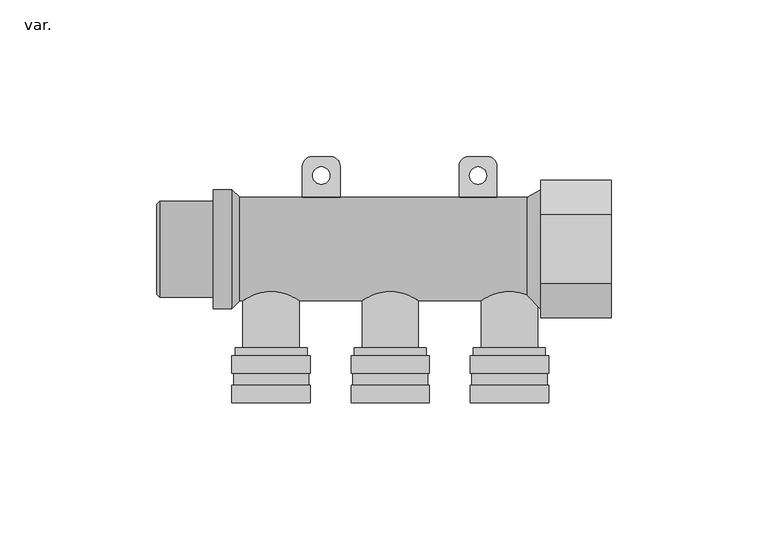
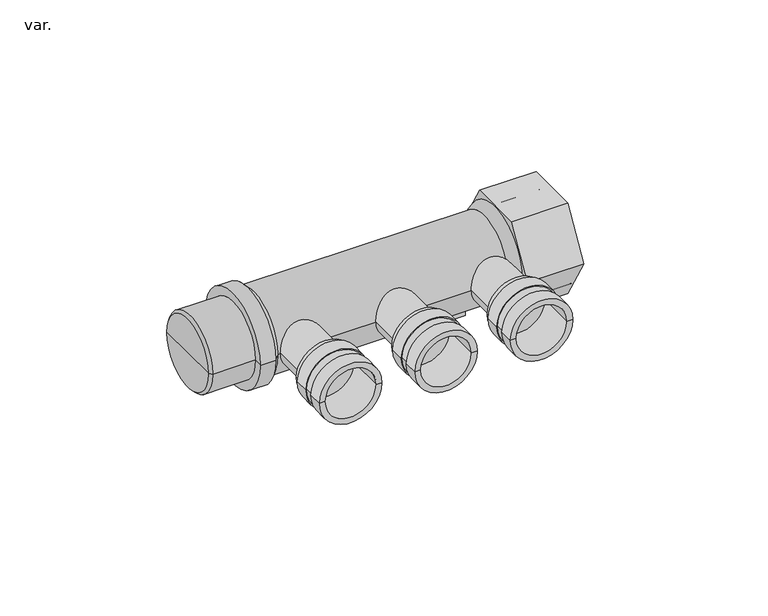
"""IFC4 building model written with IfcOpenShell, lengths in millimetres: pipe fitting geometry, AmancoWavin_ConexõesdeTubos_PEXMódulodeDistribuiçãoAberto1x20mm : var.."""

from ifc_helpers import new_model, si_unit, point, frame, origin, origin_2d, place, context, project, spatial, polyline, circle_curve, trimmed, segment, composite_curve, outline, extrude, source, transform, mapped, element, save
from ifc_brep_helpers import plane_surface, cylinder_surface, revolved_surface, advanced_brep


def var_84ef9f03(model_context):
    return source(origin(), model_context, "Body", "SolidModel", [
        advanced_brep(
        [(125.0, -49.0, 0.0), (100.0, -49.0, 0.0), (100.0, -43.375, 0.0), (125.0, -43.375, 0.0), (122.675, -49.0, 0.0), (102.325, -49.0, 0.0), (122.675, -34.0, 0.0), (102.325, -34.0, 0.0), (125.0, -34.0, 0.0), (100.0, -34.0, 0.0), (125.0, -39.625, 0.0), (100.0, -39.625, 0.0), (100.5, -43.375, 0.0), (124.5, -43.375, 0.0), (100.5, -39.625, 0.0), (124.5, -39.625, 0.0)],
        [
            (0, 1, circle_curve(frame((112.5, -49.0, 0.0), z_axis=(0.0, 1.0, 0.0), x_axis=(-1.0, 0.0, 0.0)), 12.5)),
            (1, 2),
            (2, 3, circle_curve(frame((112.5, -43.375, 0.0), z_axis=(0.0, -1.0, 0.0), x_axis=(-1.0, 0.0, 0.0)), 12.5)),
            (3, 0),
            (1, 0, circle_curve(frame((112.5, -49.0, 0.0), z_axis=(0.0, 1.0, 0.0), x_axis=(-1.0, 0.0, 0.0)), 12.5)),
            (3, 2, circle_curve(frame((112.5, -43.375, 0.0), z_axis=(0.0, -1.0, 0.0), x_axis=(-1.0, 0.0, 0.0)), 12.5)),
            (0, 4),
            (4, 5, circle_curve(frame((112.5, -49.0, 0.0), z_axis=(0.0, 1.0, 0.0), x_axis=(-1.0, 0.0, 0.0)), 10.175)),
            (5, 1),
            (5, 4, circle_curve(frame((112.5, -49.0, 0.0), z_axis=(0.0, 1.0, 0.0), x_axis=(-1.0, 0.0, 0.0)), 10.175)),
            (4, 6),
            (6, 7, circle_curve(frame((112.5, -34.0, 0.0), z_axis=(0.0, 1.0, 0.0), x_axis=(-1.0, 0.0, 0.0)), 10.175)),
            (7, 5),
            (7, 6, circle_curve(frame((112.5, -34.0, 0.0), z_axis=(0.0, 1.0, 0.0), x_axis=(-1.0, 0.0, 0.0)), 10.175)),
            (6, 8),
            (8, 9, circle_curve(frame((112.5, -34.0, 0.0), z_axis=(0.0, 1.0, 0.0), x_axis=(-1.0, 0.0, 0.0)), 12.5)),
            (9, 7),
            (9, 8, circle_curve(frame((112.5, -34.0, 0.0), z_axis=(0.0, 1.0, 0.0), x_axis=(-1.0, 0.0, 0.0)), 12.5)),
            (8, 10),
            (10, 11, circle_curve(frame((112.5, -39.625, 0.0), z_axis=(0.0, 1.0, 0.0), x_axis=(-1.0, 0.0, 0.0)), 12.5)),
            (11, 9),
            (11, 10, circle_curve(frame((112.5, -39.625, 0.0), z_axis=(0.0, 1.0, 0.0), x_axis=(-1.0, 0.0, 0.0)), 12.5)),
            (12, 13, circle_curve(frame((112.5, -43.375, 0.0), z_axis=(0.0, -1.0, 0.0), x_axis=(-1.0, 0.0, 0.0)), 12.0)),
            (13, 3),
            (2, 12),
            (13, 12, circle_curve(frame((112.5, -43.375, 0.0), z_axis=(0.0, -1.0, 0.0), x_axis=(-1.0, 0.0, 0.0)), 12.0)),
            (12, 14),
            (14, 15, circle_curve(frame((112.5, -39.625, 0.0), z_axis=(0.0, -1.0, 0.0), x_axis=(-1.0, 0.0, 0.0)), 12.0)),
            (15, 13),
            (15, 14, circle_curve(frame((112.5, -39.625, 0.0), z_axis=(0.0, -1.0, 0.0), x_axis=(-1.0, 0.0, 0.0)), 12.0)),
            (14, 11),
            (10, 15),
        ],
        [
            cylinder_surface(frame((112.5, -2043.1007619, 0.0), z_axis=(0.0, -1.0, 0.0), x_axis=(-1.0, 0.0, 0.0)), 12.5),
            plane_surface(frame((112.5, -49.0, 0.0), z_axis=(0.0, -1.0, 0.0), x_axis=(-1.0, 0.0, 0.0))),
            revolved_surface(polyline([(102.325, -49.0, 0.0), (102.325, -34.0, 0.0)]), (112.5, -2043.1007619, 0.0), (0.0, -1.0, 0.0)),
            plane_surface(frame((112.5, -34.0, 0.0), z_axis=(0.0, 1.0, 0.0), x_axis=(-1.0, 0.0, 0.0))),
            plane_surface(frame((112.5, -43.375, 0.0), z_axis=(0.0, 1.0, 0.0), x_axis=(-1.0, 0.0, 0.0))),
            cylinder_surface(frame((112.5, -2043.1007619, 0.0), z_axis=(0.0, -1.0, 0.0), x_axis=(-1.0, 0.0, 0.0)), 12.0),
            plane_surface(frame((112.5, -39.625, 0.0), z_axis=(0.0, -1.0, 0.0), x_axis=(-1.0, 0.0, 0.0))),
        ],
        [
            (0, [[1, 2, 3, 4]]),
            (0, [[5, -4, 6, -2]]),
            (1, [[-1, 7, 8, 9]]),
            (1, [[-5, -9, 10, -7]]),
            (2, [[-8, 11, 12, 13]]),
            (2, [[-10, -13, 14, -11]]),
            (3, [[-12, 15, 16, 17]]),
            (3, [[-14, -17, 18, -15]]),
            (0, [[-16, 19, 20, 21]]),
            (0, [[-18, -21, 22, -19]]),
            (4, [[23, 24, -3, 25]]),
            (4, [[26, -25, -6, -24]]),
            (5, [[-23, 27, 28, 29]]),
            (5, [[-26, -29, 30, -27]]),
            (6, [[-28, 31, -20, 32]]),
            (6, [[-30, -32, -22, -31]]),
        ],
    ),
        advanced_brep(
        [(87.0, -49.0, 0.0), (62.0, -49.0, 0.0), (62.0, -43.375, 0.0), (87.0, -43.375, 0.0), (84.675, -49.0, 0.0), (64.325, -49.0, 0.0), (84.675, -34.0, 0.0), (64.325, -34.0, 0.0), (87.0, -34.0, 0.0), (62.0, -34.0, 0.0), (87.0, -39.625, 0.0), (62.0, -39.625, 0.0), (62.5, -43.375, 0.0), (86.5, -43.375, 0.0), (62.5, -39.625, 0.0), (86.5, -39.625, 0.0)],
        [
            (0, 1, circle_curve(frame((74.5, -49.0, 0.0), z_axis=(0.0, 1.0, 0.0), x_axis=(-1.0, 0.0, 0.0)), 12.5)),
            (1, 2),
            (2, 3, circle_curve(frame((74.5, -43.375, 0.0), z_axis=(0.0, -1.0, 0.0), x_axis=(-1.0, 0.0, 0.0)), 12.5)),
            (3, 0),
            (1, 0, circle_curve(frame((74.5, -49.0, 0.0), z_axis=(0.0, 1.0, 0.0), x_axis=(-1.0, 0.0, 0.0)), 12.5)),
            (3, 2, circle_curve(frame((74.5, -43.375, 0.0), z_axis=(0.0, -1.0, 0.0), x_axis=(-1.0, 0.0, 0.0)), 12.5)),
            (0, 4),
            (4, 5, circle_curve(frame((74.5, -49.0, 0.0), z_axis=(0.0, 1.0, 0.0), x_axis=(-1.0, 0.0, 0.0)), 10.175)),
            (5, 1),
            (5, 4, circle_curve(frame((74.5, -49.0, 0.0), z_axis=(0.0, 1.0, 0.0), x_axis=(-1.0, 0.0, 0.0)), 10.175)),
            (4, 6),
            (6, 7, circle_curve(frame((74.5, -34.0, 0.0), z_axis=(0.0, 1.0, 0.0), x_axis=(-1.0, 0.0, 0.0)), 10.175)),
            (7, 5),
            (7, 6, circle_curve(frame((74.5, -34.0, 0.0), z_axis=(0.0, 1.0, 0.0), x_axis=(-1.0, 0.0, 0.0)), 10.175)),
            (6, 8),
            (8, 9, circle_curve(frame((74.5, -34.0, 0.0), z_axis=(0.0, 1.0, 0.0), x_axis=(-1.0, 0.0, 0.0)), 12.5)),
            (9, 7),
            (9, 8, circle_curve(frame((74.5, -34.0, 0.0), z_axis=(0.0, 1.0, 0.0), x_axis=(-1.0, 0.0, 0.0)), 12.5)),
            (8, 10),
            (10, 11, circle_curve(frame((74.5, -39.625, 0.0), z_axis=(0.0, 1.0, 0.0), x_axis=(-1.0, 0.0, 0.0)), 12.5)),
            (11, 9),
            (11, 10, circle_curve(frame((74.5, -39.625, 0.0), z_axis=(0.0, 1.0, 0.0), x_axis=(-1.0, 0.0, 0.0)), 12.5)),
            (12, 13, circle_curve(frame((74.5, -43.375, 0.0), z_axis=(0.0, -1.0, 0.0), x_axis=(-1.0, 0.0, 0.0)), 12.0)),
            (13, 3),
            (2, 12),
            (13, 12, circle_curve(frame((74.5, -43.375, 0.0), z_axis=(0.0, -1.0, 0.0), x_axis=(-1.0, 0.0, 0.0)), 12.0)),
            (12, 14),
            (14, 15, circle_curve(frame((74.5, -39.625, 0.0), z_axis=(0.0, -1.0, 0.0), x_axis=(-1.0, 0.0, 0.0)), 12.0)),
            (15, 13),
            (15, 14, circle_curve(frame((74.5, -39.625, 0.0), z_axis=(0.0, -1.0, 0.0), x_axis=(-1.0, 0.0, 0.0)), 12.0)),
            (14, 11),
            (10, 15),
        ],
        [
            cylinder_surface(frame((74.5, -2043.1007619, 0.0), z_axis=(0.0, -1.0, 0.0), x_axis=(-1.0, 0.0, 0.0)), 12.5),
            plane_surface(frame((74.5, -49.0, 0.0), z_axis=(0.0, -1.0, 0.0), x_axis=(-1.0, 0.0, 0.0))),
            revolved_surface(polyline([(64.325, -49.0, 0.0), (64.325, -34.0, 0.0)]), (74.5, -2043.1007619, 0.0), (0.0, -1.0, 0.0)),
            plane_surface(frame((74.5, -34.0, 0.0), z_axis=(0.0, 1.0, 0.0), x_axis=(-1.0, 0.0, 0.0))),
            plane_surface(frame((74.5, -43.375, 0.0), z_axis=(0.0, 1.0, 0.0), x_axis=(-1.0, 0.0, 0.0))),
            cylinder_surface(frame((74.5, -2043.1007619, 0.0), z_axis=(0.0, -1.0, 0.0), x_axis=(-1.0, 0.0, 0.0)), 12.0),
            plane_surface(frame((74.5, -39.625, 0.0), z_axis=(0.0, -1.0, 0.0), x_axis=(-1.0, 0.0, 0.0))),
        ],
        [
            (0, [[1, 2, 3, 4]]),
            (0, [[5, -4, 6, -2]]),
            (1, [[-1, 7, 8, 9]]),
            (1, [[-5, -9, 10, -7]]),
            (2, [[-8, 11, 12, 13]]),
            (2, [[-10, -13, 14, -11]]),
            (3, [[-12, 15, 16, 17]]),
            (3, [[-14, -17, 18, -15]]),
            (0, [[-16, 19, 20, 21]]),
            (0, [[-18, -21, 22, -19]]),
            (4, [[23, 24, -3, 25]]),
            (4, [[26, -25, -6, -24]]),
            (5, [[-23, 27, 28, 29]]),
            (5, [[-26, -29, 30, -27]]),
            (6, [[-28, 31, -20, 32]]),
            (6, [[-30, -32, -22, -31]]),
        ],
    ),
        advanced_brep(
        [(49.0, -49.0, 0.0), (24.0, -49.0, 0.0), (24.0, -43.375, 0.0), (49.0, -43.375, 0.0), (46.675, -49.0, 0.0), (26.325, -49.0, 0.0), (46.675, -34.0, 0.0), (26.325, -34.0, 0.0), (49.0, -34.0, 0.0), (24.0, -34.0, 0.0), (49.0, -39.625, 0.0), (24.0, -39.625, 0.0), (24.5, -43.375, 0.0), (48.5, -43.375, 0.0), (24.5, -39.625, 0.0), (48.5, -39.625, 0.0)],
        [
            (0, 1, circle_curve(frame((36.5, -49.0, 0.0), z_axis=(0.0, 1.0, 0.0), x_axis=(-1.0, 0.0, 0.0)), 12.5)),
            (1, 2),
            (2, 3, circle_curve(frame((36.5, -43.375, 0.0), z_axis=(0.0, -1.0, 0.0), x_axis=(-1.0, 0.0, 0.0)), 12.5)),
            (3, 0),
            (1, 0, circle_curve(frame((36.5, -49.0, 0.0), z_axis=(0.0, 1.0, 0.0), x_axis=(-1.0, 0.0, 0.0)), 12.5)),
            (3, 2, circle_curve(frame((36.5, -43.375, 0.0), z_axis=(0.0, -1.0, 0.0), x_axis=(-1.0, 0.0, 0.0)), 12.5)),
            (0, 4),
            (4, 5, circle_curve(frame((36.5, -49.0, 0.0), z_axis=(0.0, 1.0, 0.0), x_axis=(-1.0, 0.0, 0.0)), 10.175)),
            (5, 1),
            (5, 4, circle_curve(frame((36.5, -49.0, 0.0), z_axis=(0.0, 1.0, 0.0), x_axis=(-1.0, 0.0, 0.0)), 10.175)),
            (4, 6),
            (6, 7, circle_curve(frame((36.5, -34.0, 0.0), z_axis=(0.0, 1.0, 0.0), x_axis=(-1.0, 0.0, 0.0)), 10.175)),
            (7, 5),
            (7, 6, circle_curve(frame((36.5, -34.0, 0.0), z_axis=(0.0, 1.0, 0.0), x_axis=(-1.0, 0.0, 0.0)), 10.175)),
            (6, 8),
            (8, 9, circle_curve(frame((36.5, -34.0, 0.0), z_axis=(0.0, 1.0, 0.0), x_axis=(-1.0, 0.0, 0.0)), 12.5)),
            (9, 7),
            (9, 8, circle_curve(frame((36.5, -34.0, 0.0), z_axis=(0.0, 1.0, 0.0), x_axis=(-1.0, 0.0, 0.0)), 12.5)),
            (8, 10),
            (10, 11, circle_curve(frame((36.5, -39.625, 0.0), z_axis=(0.0, 1.0, 0.0), x_axis=(-1.0, 0.0, 0.0)), 12.5)),
            (11, 9),
            (11, 10, circle_curve(frame((36.5, -39.625, 0.0), z_axis=(0.0, 1.0, 0.0), x_axis=(-1.0, 0.0, 0.0)), 12.5)),
            (12, 13, circle_curve(frame((36.5, -43.375, 0.0), z_axis=(0.0, -1.0, 0.0), x_axis=(-1.0, 0.0, 0.0)), 12.0)),
            (13, 3),
            (2, 12),
            (13, 12, circle_curve(frame((36.5, -43.375, 0.0), z_axis=(0.0, -1.0, 0.0), x_axis=(-1.0, 0.0, 0.0)), 12.0)),
            (12, 14),
            (14, 15, circle_curve(frame((36.5, -39.625, 0.0), z_axis=(0.0, -1.0, 0.0), x_axis=(-1.0, 0.0, 0.0)), 12.0)),
            (15, 13),
            (15, 14, circle_curve(frame((36.5, -39.625, 0.0), z_axis=(0.0, -1.0, 0.0), x_axis=(-1.0, 0.0, 0.0)), 12.0)),
            (14, 11),
            (10, 15),
        ],
        [
            cylinder_surface(frame((36.5, -2043.1007619, 0.0), z_axis=(0.0, -1.0, 0.0), x_axis=(-1.0, 0.0, 0.0)), 12.5),
            plane_surface(frame((36.5, -49.0, 0.0), z_axis=(0.0, -1.0, 0.0), x_axis=(-1.0, 0.0, 0.0))),
            revolved_surface(polyline([(26.325, -49.0, 0.0), (26.325, -34.0, 0.0)]), (36.5, -2043.1007619, 0.0), (0.0, -1.0, 0.0)),
            plane_surface(frame((36.5, -34.0, 0.0), z_axis=(0.0, 1.0, 0.0), x_axis=(-1.0, 0.0, 0.0))),
            plane_surface(frame((36.5, -43.375, 0.0), z_axis=(0.0, 1.0, 0.0), x_axis=(-1.0, 0.0, 0.0))),
            cylinder_surface(frame((36.5, -2043.1007619, 0.0), z_axis=(0.0, -1.0, 0.0), x_axis=(-1.0, 0.0, 0.0)), 12.0),
            plane_surface(frame((36.5, -39.625, 0.0), z_axis=(0.0, -1.0, 0.0), x_axis=(-1.0, 0.0, 0.0))),
        ],
        [
            (0, [[1, 2, 3, 4]]),
            (0, [[5, -4, 6, -2]]),
            (1, [[-1, 7, 8, 9]]),
            (1, [[-5, -9, 10, -7]]),
            (2, [[-8, 11, 12, 13]]),
            (2, [[-10, -13, 14, -11]]),
            (3, [[-12, 15, 16, 17]]),
            (3, [[-14, -17, 18, -15]]),
            (0, [[-16, 19, 20, 21]]),
            (0, [[-18, -21, 22, -19]]),
            (4, [[23, 24, -3, 25]]),
            (4, [[26, -25, -6, -24]]),
            (5, [[-23, 27, 28, 29]]),
            (5, [[-26, -29, 30, -27]]),
            (6, [[-28, 31, -20, 32]]),
            (6, [[-30, -32, -22, -31]]),
        ],
    ),
        advanced_brep(
        [(121.5, 0.0, 0.0), (103.5, 0.0, 0.0), (112.5, 0.0, 0.0), (121.5, -31.5, 0.0), (103.5, -31.5, 0.0), (124.0, -31.5, 0.0), (101.0, -31.5, 0.0), (124.0, -34.0, 0.0), (101.0, -34.0, 0.0), (112.5, -34.0, 0.0)],
        [
            (0, 1, circle_curve(frame((112.5, 0.0, 0.0), z_axis=(0.0, 1.0, 0.0), x_axis=(-1.0, 0.0, 0.0)), 9.0)),
            (1, 2),
            (2, 0),
            (1, 0, circle_curve(frame((112.5, 0.0, 0.0), z_axis=(0.0, 1.0, 0.0), x_axis=(-1.0, 0.0, 0.0)), 9.0)),
            (3, 4, circle_curve(frame((112.5, -31.5, 0.0), z_axis=(0.0, 1.0, 0.0), x_axis=(-1.0, 0.0, 0.0)), 9.0)),
            (4, 1),
            (0, 3),
            (4, 3, circle_curve(frame((112.5, -31.5, 0.0), z_axis=(0.0, 1.0, 0.0), x_axis=(-1.0, 0.0, 0.0)), 9.0)),
            (5, 6, circle_curve(frame((112.5, -31.5, 0.0), z_axis=(0.0, 1.0, 0.0), x_axis=(-1.0, 0.0, 0.0)), 11.5)),
            (6, 4),
            (3, 5),
            (6, 5, circle_curve(frame((112.5, -31.5, 0.0), z_axis=(0.0, 1.0, 0.0), x_axis=(-1.0, 0.0, 0.0)), 11.5)),
            (7, 8, circle_curve(frame((112.5, -34.0, 0.0), z_axis=(0.0, 1.0, 0.0), x_axis=(-1.0, 0.0, 0.0)), 11.5)),
            (8, 6),
            (5, 7),
            (8, 7, circle_curve(frame((112.5, -34.0, 0.0), z_axis=(0.0, 1.0, 0.0), x_axis=(-1.0, 0.0, 0.0)), 11.5)),
            (9, 8),
            (7, 9),
        ],
        [
            plane_surface(frame((112.5, 0.0, 0.0), z_axis=(0.0, 1.0, 0.0), x_axis=(-1.0, 0.0, 0.0))),
            cylinder_surface(frame((112.5, 0.0, 0.0), z_axis=(0.0, -1.0, 0.0), x_axis=(-1.0, 0.0, 0.0)), 9.0),
            plane_surface(frame((112.5, -31.5, 0.0), z_axis=(0.0, 1.0, 0.0), x_axis=(-1.0, 0.0, 0.0))),
            cylinder_surface(frame((112.5, 0.0, 0.0), z_axis=(0.0, -1.0, 0.0), x_axis=(-1.0, 0.0, 0.0)), 11.5),
            plane_surface(frame((112.5, -34.0, 0.0), z_axis=(0.0, -1.0, 0.0), x_axis=(-1.0, 0.0, 0.0))),
        ],
        [
            (0, [[1, 2, 3]]),
            (0, [[4, -3, -2]]),
            (1, [[5, 6, -1, 7]]),
            (1, [[8, -7, -4, -6]]),
            (2, [[9, 10, -5, 11]]),
            (2, [[12, -11, -8, -10]]),
            (3, [[13, 14, -9, 15]]),
            (3, [[16, -15, -12, -14]]),
            (4, [[17, -13, 18]]),
            (4, [[-18, -16, -17]]),
        ],
    ),
        advanced_brep(
        [(83.5, 0.0, 0.0), (65.5, 0.0, 0.0), (74.5, 0.0, 0.0), (83.5, -31.5, 0.0), (65.5, -31.5, 0.0), (86.0, -31.5, 0.0), (63.0, -31.5, 0.0), (86.0, -34.0, 0.0), (63.0, -34.0, 0.0), (74.5, -34.0, 0.0)],
        [
            (0, 1, circle_curve(frame((74.5, 0.0, 0.0), z_axis=(0.0, 1.0, 0.0), x_axis=(-1.0, 0.0, 0.0)), 9.0)),
            (1, 2),
            (2, 0),
            (1, 0, circle_curve(frame((74.5, 0.0, 0.0), z_axis=(0.0, 1.0, 0.0), x_axis=(-1.0, 0.0, 0.0)), 9.0)),
            (3, 4, circle_curve(frame((74.5, -31.5, 0.0), z_axis=(0.0, 1.0, 0.0), x_axis=(-1.0, 0.0, 0.0)), 9.0)),
            (4, 1),
            (0, 3),
            (4, 3, circle_curve(frame((74.5, -31.5, 0.0), z_axis=(0.0, 1.0, 0.0), x_axis=(-1.0, 0.0, 0.0)), 9.0)),
            (5, 6, circle_curve(frame((74.5, -31.5, 0.0), z_axis=(0.0, 1.0, 0.0), x_axis=(-1.0, 0.0, 0.0)), 11.5)),
            (6, 4),
            (3, 5),
            (6, 5, circle_curve(frame((74.5, -31.5, 0.0), z_axis=(0.0, 1.0, 0.0), x_axis=(-1.0, 0.0, 0.0)), 11.5)),
            (7, 8, circle_curve(frame((74.5, -34.0, 0.0), z_axis=(0.0, 1.0, 0.0), x_axis=(-1.0, 0.0, 0.0)), 11.5)),
            (8, 6),
            (5, 7),
            (8, 7, circle_curve(frame((74.5, -34.0, 0.0), z_axis=(0.0, 1.0, 0.0), x_axis=(-1.0, 0.0, 0.0)), 11.5)),
            (9, 8),
            (7, 9),
        ],
        [
            plane_surface(frame((74.5, 0.0, 0.0), z_axis=(0.0, 1.0, 0.0), x_axis=(-1.0, 0.0, 0.0))),
            cylinder_surface(frame((74.5, 0.0, 0.0), z_axis=(0.0, -1.0, 0.0), x_axis=(-1.0, 0.0, 0.0)), 9.0),
            plane_surface(frame((74.5, -31.5, 0.0), z_axis=(0.0, 1.0, 0.0), x_axis=(-1.0, 0.0, 0.0))),
            cylinder_surface(frame((74.5, 0.0, 0.0), z_axis=(0.0, -1.0, 0.0), x_axis=(-1.0, 0.0, 0.0)), 11.5),
            plane_surface(frame((74.5, -34.0, 0.0), z_axis=(0.0, -1.0, 0.0), x_axis=(-1.0, 0.0, 0.0))),
        ],
        [
            (0, [[1, 2, 3]]),
            (0, [[4, -3, -2]]),
            (1, [[5, 6, -1, 7]]),
            (1, [[8, -7, -4, -6]]),
            (2, [[9, 10, -5, 11]]),
            (2, [[12, -11, -8, -10]]),
            (3, [[13, 14, -9, 15]]),
            (3, [[16, -15, -12, -14]]),
            (4, [[17, -13, 18]]),
            (4, [[-18, -16, -17]]),
        ],
    ),
        advanced_brep(
        [(45.5, 0.0, 0.0), (27.5, 0.0, 0.0), (36.5, 0.0, 0.0), (45.5, -31.5, 0.0), (27.5, -31.5, 0.0), (48.0, -31.5, 0.0), (25.0, -31.5, 0.0), (48.0, -34.0, 0.0), (25.0, -34.0, 0.0), (36.5, -34.0, 0.0)],
        [
            (0, 1, circle_curve(frame((36.5, 0.0, 0.0), z_axis=(0.0, 1.0, 0.0), x_axis=(-1.0, 0.0, 0.0)), 9.0)),
            (1, 2),
            (2, 0),
            (1, 0, circle_curve(frame((36.5, 0.0, 0.0), z_axis=(0.0, 1.0, 0.0), x_axis=(-1.0, 0.0, 0.0)), 9.0)),
            (3, 4, circle_curve(frame((36.5, -31.5, 0.0), z_axis=(0.0, 1.0, 0.0), x_axis=(-1.0, 0.0, 0.0)), 9.0)),
            (4, 1),
            (0, 3),
            (4, 3, circle_curve(frame((36.5, -31.5, 0.0), z_axis=(0.0, 1.0, 0.0), x_axis=(-1.0, 0.0, 0.0)), 9.0)),
            (5, 6, circle_curve(frame((36.5, -31.5, 0.0), z_axis=(0.0, 1.0, 0.0), x_axis=(-1.0, 0.0, 0.0)), 11.5)),
            (6, 4),
            (3, 5),
            (6, 5, circle_curve(frame((36.5, -31.5, 0.0), z_axis=(0.0, 1.0, 0.0), x_axis=(-1.0, 0.0, 0.0)), 11.5)),
            (7, 8, circle_curve(frame((36.5, -34.0, 0.0), z_axis=(0.0, 1.0, 0.0), x_axis=(-1.0, 0.0, 0.0)), 11.5)),
            (8, 6),
            (5, 7),
            (8, 7, circle_curve(frame((36.5, -34.0, 0.0), z_axis=(0.0, 1.0, 0.0), x_axis=(-1.0, 0.0, 0.0)), 11.5)),
            (9, 8),
            (7, 9),
        ],
        [
            plane_surface(frame((36.5, 0.0, 0.0), z_axis=(0.0, 1.0, 0.0), x_axis=(-1.0, 0.0, 0.0))),
            cylinder_surface(frame((36.5, 0.0, 0.0), z_axis=(0.0, -1.0, 0.0), x_axis=(-1.0, 0.0, 0.0)), 9.0),
            plane_surface(frame((36.5, -31.5, 0.0), z_axis=(0.0, 1.0, 0.0), x_axis=(-1.0, 0.0, 0.0))),
            cylinder_surface(frame((36.5, 0.0, 0.0), z_axis=(0.0, -1.0, 0.0), x_axis=(-1.0, 0.0, 0.0)), 11.5),
            plane_surface(frame((36.5, -34.0, 0.0), z_axis=(0.0, -1.0, 0.0), x_axis=(-1.0, 0.0, 0.0))),
        ],
        [
            (0, [[1, 2, 3]]),
            (0, [[4, -3, -2]]),
            (1, [[5, 6, -1, 7]]),
            (1, [[8, -7, -4, -6]]),
            (2, [[9, 10, -5, 11]]),
            (2, [[12, -11, -8, -10]]),
            (3, [[13, 14, -9, 15]]),
            (3, [[16, -15, -12, -14]]),
            (4, [[17, -13, 18]]),
            (4, [[-18, -16, -17]]),
        ],
    ),
        advanced_brep(
        [(96.5, -3.5, 0.0), (108.5, -3.5, 0.0), (108.5, 16.5, 0.0), (96.5, 16.5, 0.0), (96.5, 26.5, -20.0), (99.5, 29.5, -20.0), (105.5, 29.5, -20.0), (108.5, 26.5, -20.0), (108.5, -3.5, -20.0), (96.5, -3.5, -20.0), (99.75, 23.5, -20.0), (105.25, 23.5, -20.0), (108.5, 26.5, -16.5), (108.5, 16.5, -16.5), (96.5, 16.5, -16.5), (96.5, 26.5, -16.5), (105.5, 29.5, -16.5), (99.5, 29.5, -16.5), (99.75, 23.5, -16.5), (105.25, 23.5, -16.5)],
        [
            (0, 1),
            (1, 2),
            (2, 3),
            (3, 0),
            (4, 5, circle_curve(frame((99.5, 26.5, -20.0), z_axis=(0.0, 0.0, -1.0), x_axis=(1.0, 0.0, 0.0)), 3.0)),
            (5, 6),
            (6, 7, circle_curve(frame((105.5, 26.5, -20.0), z_axis=(0.0, 0.0, -1.0), x_axis=(1.0, 0.0, 0.0)), 3.0)),
            (7, 8),
            (8, 9),
            (9, 4),
            (10, 11, circle_curve(frame((102.5, 23.5, -20.0), z_axis=(0.0, 0.0, 1.0), x_axis=(1.0, 0.0, 0.0)), 2.75)),
            (11, 10, circle_curve(frame((102.5, 23.5, -20.0), z_axis=(0.0, 0.0, 1.0), x_axis=(1.0, 0.0, 0.0)), 2.75)),
            (8, 1),
            (0, 9),
            (7, 12),
            (12, 13),
            (13, 2),
            (13, 14),
            (14, 3),
            (14, 15),
            (15, 4),
            (16, 17),
            (17, 15, circle_curve(frame((99.5, 26.5, -16.5), z_axis=(0.0, 0.0, 1.0), x_axis=(1.0, 0.0, 0.0)), 3.0)),
            (12, 16, circle_curve(frame((105.5, 26.5, -16.5), z_axis=(0.0, 0.0, 1.0), x_axis=(1.0, 0.0, 0.0)), 3.0)),
            (18, 19, circle_curve(frame((102.5, 23.5, -16.5), z_axis=(0.0, 0.0, -1.0), x_axis=(1.0, 0.0, 0.0)), 2.75)),
            (19, 18, circle_curve(frame((102.5, 23.5, -16.5), z_axis=(0.0, 0.0, -1.0), x_axis=(1.0, 0.0, 0.0)), 2.75)),
            (5, 17),
            (16, 6),
            (11, 19),
            (18, 10),
        ],
        [
            plane_surface(frame((108.5, -3.5, 0.0), z_axis=(0.0, 0.0, 1.0), x_axis=(1.0, 0.0, 0.0))),
            plane_surface(frame((108.5, -3.5, -20.0), z_axis=(0.0, 0.0, -1.0), x_axis=(-1.0, 0.0, 0.0))),
            plane_surface(frame((96.5, -3.5, 0.0), z_axis=(0.0, -1.0, 0.0), x_axis=(0.0, 0.0, -1.0))),
            plane_surface(frame((108.5, -3.5, 0.0), z_axis=(1.0, 0.0, 0.0), x_axis=(0.0, 0.0, -1.0))),
            plane_surface(frame((108.5, 16.5, 0.0), z_axis=(0.0, 1.0, 0.0), x_axis=(0.0, 0.0, -1.0))),
            plane_surface(frame((96.5, 16.5, 0.0), z_axis=(-1.0, 0.0, 0.0), x_axis=(0.0, 0.0, -1.0))),
            plane_surface(frame((99.5, 29.5, -16.5), z_axis=(0.0, 0.0, 1.0), x_axis=(-1.0, 0.0, 0.0))),
            plane_surface(frame((105.5, 29.5, -16.5), z_axis=(0.0, 1.0, 0.0), x_axis=(0.0, 0.0, -1.0))),
            cylinder_surface(frame((99.5, 26.5, -20.0), z_axis=(0.0, 0.0, 1.0), x_axis=(1.0, 0.0, 0.0)), 3.0),
            cylinder_surface(frame((105.5, 26.5, -20.0), z_axis=(0.0, 0.0, 1.0), x_axis=(1.0, 0.0, 0.0)), 3.0),
            revolved_surface(polyline([(105.25, 23.5, -20.0), (105.25, 23.5, -16.5)]), (102.5, 23.5, 0.0), (0.0, 0.0, -1.0)),
        ],
        [
            (0, [[1, 2, 3, 4]]),
            (1, [[5, 6, 7, 8, 9, 10], [11, 12]]),
            (2, [[13, -1, 14, -9]]),
            (3, [[-2, -13, -8, 15, 16, 17]]),
            (4, [[-3, -17, 18, 19]]),
            (5, [[-4, -19, 20, 21, -10, -14]]),
            (6, [[22, 23, -20, -18, -16, 24], [25, 26]]),
            (7, [[-6, 27, -22, 28]]),
            (8, [[-5, -21, -23, -27]]),
            (9, [[-7, -28, -24, -15]]),
            (10, [[-12, 29, -25, 30]]),
            (10, [[-11, -30, -26, -29]]),
        ],
    ),
        advanced_brep(
        [(46.5, -3.5, 0.0), (58.5, -3.5, 0.0), (58.5, 16.5, 0.0), (46.5, 16.5, 0.0), (46.5, 26.5, -20.0), (49.5, 29.5, -20.0), (55.5, 29.5, -20.0), (58.5, 26.5, -20.0), (58.5, -3.5, -20.0), (46.5, -3.5, -20.0), (49.75, 23.5, -20.0), (55.25, 23.5, -20.0), (58.5, 26.5, -16.5), (58.5, 16.5, -16.5), (46.5, 16.5, -16.5), (46.5, 26.5, -16.5), (55.5, 29.5, -16.5), (49.5, 29.5, -16.5), (49.75, 23.5, -16.5), (55.25, 23.5, -16.5)],
        [
            (0, 1),
            (1, 2),
            (2, 3),
            (3, 0),
            (4, 5, circle_curve(frame((49.5, 26.5, -20.0), z_axis=(0.0, 0.0, -1.0), x_axis=(1.0, 0.0, 0.0)), 3.0)),
            (5, 6),
            (6, 7, circle_curve(frame((55.5, 26.5, -20.0), z_axis=(0.0, 0.0, -1.0), x_axis=(1.0, 0.0, 0.0)), 3.0)),
            (7, 8),
            (8, 9),
            (9, 4),
            (10, 11, circle_curve(frame((52.5, 23.5, -20.0), z_axis=(0.0, 0.0, 1.0), x_axis=(1.0, 0.0, 0.0)), 2.75)),
            (11, 10, circle_curve(frame((52.5, 23.5, -20.0), z_axis=(0.0, 0.0, 1.0), x_axis=(1.0, 0.0, 0.0)), 2.75)),
            (8, 1),
            (0, 9),
            (7, 12),
            (12, 13),
            (13, 2),
            (13, 14),
            (14, 3),
            (14, 15),
            (15, 4),
            (16, 17),
            (17, 15, circle_curve(frame((49.5, 26.5, -16.5), z_axis=(0.0, 0.0, 1.0), x_axis=(1.0, 0.0, 0.0)), 3.0)),
            (12, 16, circle_curve(frame((55.5, 26.5, -16.5), z_axis=(0.0, 0.0, 1.0), x_axis=(1.0, 0.0, 0.0)), 3.0)),
            (18, 19, circle_curve(frame((52.5, 23.5, -16.5), z_axis=(0.0, 0.0, -1.0), x_axis=(1.0, 0.0, 0.0)), 2.75)),
            (19, 18, circle_curve(frame((52.5, 23.5, -16.5), z_axis=(0.0, 0.0, -1.0), x_axis=(1.0, 0.0, 0.0)), 2.75)),
            (16, 6),
            (5, 17),
            (18, 10),
            (11, 19),
        ],
        [
            plane_surface(frame((58.5, -3.5, 0.0), z_axis=(0.0, 0.0, 1.0), x_axis=(1.0, 0.0, 0.0))),
            plane_surface(frame((58.5, -3.5, -20.0), z_axis=(0.0, 0.0, -1.0), x_axis=(-1.0, 0.0, 0.0))),
            plane_surface(frame((46.5, -3.5, 0.0), z_axis=(0.0, -1.0, 0.0), x_axis=(0.0, 0.0, -1.0))),
            plane_surface(frame((58.5, -3.5, 0.0), z_axis=(1.0, 0.0, 0.0), x_axis=(0.0, 0.0, -1.0))),
            plane_surface(frame((58.5, 16.5, 0.0), z_axis=(0.0, 1.0, 0.0), x_axis=(0.0, 0.0, -1.0))),
            plane_surface(frame((46.5, 16.5, 0.0), z_axis=(-1.0, 0.0, 0.0), x_axis=(0.0, 0.0, -1.0))),
            plane_surface(frame((49.5, 29.5, -16.5), z_axis=(0.0, 0.0, 1.0), x_axis=(-1.0, 0.0, 0.0))),
            plane_surface(frame((55.5, 29.5, -16.5), z_axis=(0.0, 1.0, 0.0), x_axis=(0.0, 0.0, -1.0))),
            cylinder_surface(frame((49.5, 26.5, -20.0), z_axis=(0.0, 0.0, 1.0), x_axis=(1.0, 0.0, 0.0)), 3.0),
            cylinder_surface(frame((55.5, 26.5, -20.0), z_axis=(0.0, 0.0, 1.0), x_axis=(1.0, 0.0, 0.0)), 3.0),
            revolved_surface(polyline([(55.25, 23.5, -20.0), (55.25, 23.5, -16.5)]), (52.5, 23.5, 0.0), (0.0, 0.0, -1.0)),
        ],
        [
            (0, [[1, 2, 3, 4]]),
            (1, [[5, 6, 7, 8, 9, 10], [11, 12]]),
            (2, [[13, -1, 14, -9]]),
            (3, [[-2, -13, -8, 15, 16, 17]]),
            (4, [[-3, -17, 18, 19]]),
            (5, [[-4, -19, 20, 21, -10, -14]]),
            (6, [[22, 23, -20, -18, -16, 24], [25, 26]]),
            (7, [[-22, 27, -6, 28]]),
            (8, [[-23, -28, -5, -21]]),
            (9, [[-24, -15, -7, -27]]),
            (10, [[-25, 29, -12, 30]]),
            (10, [[-26, -30, -11, -29]]),
        ],
    ),
        extrude(outline(polyline([(21.9393102, 0.0), (10.9696551, -19.0), (-10.9696551, -19.0), (-21.9393102, 0.0), (-10.9696551, 19.0), (10.9696551, 19.0), (21.9393102, 0.0)]), holes=[composite_curve([segment(trimmed(circle_curve(origin_2d(), 15.375), [point((15.375, 0.0))], [point((-15.375, 0.0))], True, "CARTESIAN"), True, "CONTINUOUS"), segment(trimmed(circle_curve(origin_2d(), 15.375), [point((-15.375, 0.0))], [point((15.375, 0.0))], True, "CARTESIAN"), True, "CONTINUOUS")], self_intersect=False)]), frame((122.5, 0.0, 0.0), z_axis=(1.0, 0.0, 0.0), x_axis=(0.0, 1.0, 0.0)), (0.0, 0.0, 1.0), 22.5),
        advanced_brep(
        [(0.0, -14.375, 0.0), (0.0, 14.375, 0.0), (1.0, 15.375, 0.0), (1.0, -15.375, 0.0), (0.0, 0.0, 0.0), (18.0, 15.375, 0.0), (18.0, -15.375, 0.0), (127.0, -15.375, 0.0), (127.0, 15.375, 0.0), (127.0, 0.0, 0.0), (145.0, -15.375, 0.0), (145.0, 15.375, 0.0), (145.0, -19.0, 0.0), (145.0, 19.0, 0.0), (122.5, -19.0, 0.0), (122.5, 19.0, 0.0), (118.169873, -16.5, 0.0), (118.169873, 16.5, 0.0), (18.0, -19.0, 0.0), (18.0, 19.0, 0.0), (24.0, 19.0, 0.0), (24.0, -19.0, 0.0), (26.5, -16.5, 0.0), (26.5, 16.5, 0.0)],
        [
            (0, 1, circle_curve(frame((0.0, 0.0, 0.0), z_axis=(1.0, 0.0, 0.0), x_axis=(0.0, 1.0, 0.0)), 14.375)),
            (1, 2),
            (2, 3, circle_curve(frame((1.0, 0.0, 0.0), z_axis=(-1.0, 0.0, 0.0), x_axis=(0.0, 1.0, 0.0)), 15.375)),
            (3, 0),
            (1, 0, circle_curve(frame((0.0, 0.0, 0.0), z_axis=(1.0, 0.0, 0.0), x_axis=(0.0, 1.0, 0.0)), 14.375)),
            (3, 2, circle_curve(frame((1.0, 0.0, 0.0), z_axis=(-1.0, 0.0, 0.0), x_axis=(0.0, 1.0, 0.0)), 15.375)),
            (4, 1),
            (0, 4),
            (2, 5),
            (5, 6, circle_curve(frame((18.0, 0.0, 0.0), z_axis=(-1.0, 0.0, 0.0), x_axis=(0.0, 1.0, 0.0)), 15.375)),
            (6, 3),
            (6, 5, circle_curve(frame((18.0, 0.0, 0.0), z_axis=(-1.0, 0.0, 0.0), x_axis=(0.0, 1.0, 0.0)), 15.375)),
            (7, 8, circle_curve(frame((127.0, 0.0, 0.0), z_axis=(1.0, 0.0, 0.0), x_axis=(0.0, 1.0, 0.0)), 15.375)),
            (8, 9),
            (9, 7),
            (8, 7, circle_curve(frame((127.0, 0.0, 0.0), z_axis=(1.0, 0.0, 0.0), x_axis=(0.0, 1.0, 0.0)), 15.375)),
            (10, 11, circle_curve(frame((145.0, 0.0, 0.0), z_axis=(1.0, 0.0, 0.0), x_axis=(0.0, 1.0, 0.0)), 15.375)),
            (11, 8),
            (7, 10),
            (11, 10, circle_curve(frame((145.0, 0.0, 0.0), z_axis=(1.0, 0.0, 0.0), x_axis=(0.0, 1.0, 0.0)), 15.375)),
            (12, 13, circle_curve(frame((145.0, 0.0, 0.0), z_axis=(1.0, 0.0, 0.0), x_axis=(0.0, 1.0, 0.0)), 19.0)),
            (13, 11),
            (10, 12),
            (13, 12, circle_curve(frame((145.0, 0.0, 0.0), z_axis=(1.0, 0.0, 0.0), x_axis=(0.0, 1.0, 0.0)), 19.0)),
            (14, 15, circle_curve(frame((122.5, 0.0, 0.0), z_axis=(1.0, 0.0, 0.0), x_axis=(0.0, 1.0, 0.0)), 19.0)),
            (15, 13),
            (12, 14),
            (15, 14, circle_curve(frame((122.5, 0.0, 0.0), z_axis=(1.0, 0.0, 0.0), x_axis=(0.0, 1.0, 0.0)), 19.0)),
            (16, 17, circle_curve(frame((118.169873, 0.0, 0.0), z_axis=(1.0, 0.0, 0.0), x_axis=(0.0, 1.0, 0.0)), 16.5)),
            (17, 15),
            (14, 16),
            (17, 16, circle_curve(frame((118.169873, 0.0, 0.0), z_axis=(1.0, 0.0, 0.0), x_axis=(0.0, 1.0, 0.0)), 16.5)),
            (18, 19, circle_curve(frame((18.0, 0.0, 0.0), z_axis=(1.0, 0.0, 0.0), x_axis=(0.0, 1.0, 0.0)), 19.0)),
            (19, 20),
            (20, 21, circle_curve(frame((24.0, 0.0, 0.0), z_axis=(-1.0, 0.0, 0.0), x_axis=(0.0, 1.0, 0.0)), 19.0)),
            (21, 18),
            (19, 18, circle_curve(frame((18.0, 0.0, 0.0), z_axis=(1.0, 0.0, 0.0), x_axis=(0.0, 1.0, 0.0)), 19.0)),
            (21, 20, circle_curve(frame((24.0, 0.0, 0.0), z_axis=(-1.0, 0.0, 0.0), x_axis=(0.0, 1.0, 0.0)), 19.0)),
            (5, 19),
            (18, 6),
            (22, 23, circle_curve(frame((26.5, 0.0, 0.0), z_axis=(1.0, 0.0, 0.0), x_axis=(0.0, 1.0, 0.0)), 16.5)),
            (23, 17),
            (16, 22),
            (23, 22, circle_curve(frame((26.5, 0.0, 0.0), z_axis=(1.0, 0.0, 0.0), x_axis=(0.0, 1.0, 0.0)), 16.5)),
            (20, 23),
            (22, 21),
        ],
        [
            revolved_surface(polyline([(1.0, 15.375, 0.0), (0.0, 14.375, 0.0)]), (-2001.7466803, 0.0, 0.0), (-1.0, 0.0, 0.0)),
            plane_surface(frame((0.0, 0.0, 0.0), z_axis=(-1.0, 0.0, 0.0), x_axis=(0.0, 1.0, 0.0))),
            cylinder_surface(frame((-2001.7466803, 0.0, 0.0), z_axis=(-1.0, 0.0, 0.0), x_axis=(0.0, 1.0, 0.0)), 15.375),
            plane_surface(frame((127.0, 0.0, 0.0), z_axis=(1.0, 0.0, 0.0), x_axis=(0.0, 1.0, 0.0))),
            revolved_surface(polyline([(126.99999999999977, 15.375, 0.0), (144.99999999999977, 15.375, 0.0)]), (-2001.7466803, 0.0, 0.0), (-1.0, 0.0, 0.0)),
            plane_surface(frame((145.0, 0.0, 0.0), z_axis=(1.0, 0.0, 0.0), x_axis=(0.0, 1.0, 0.0))),
            cylinder_surface(frame((-2001.7466803, 0.0, 0.0), z_axis=(-1.0, 0.0, 0.0), x_axis=(0.0, 1.0, 0.0)), 19.0),
            revolved_surface(polyline([(122.5, 19.0, 0.0), (118.169873, 16.5, 0.0)]), (-2001.7466803, 0.0, 0.0), (-1.0, 0.0, 0.0)),
            plane_surface(frame((18.0, 0.0, 0.0), z_axis=(-1.0, 0.0, 0.0), x_axis=(0.0, 1.0, 0.0))),
            cylinder_surface(frame((-2001.7466803, 0.0, 0.0), z_axis=(-1.0, 0.0, 0.0), x_axis=(0.0, 1.0, 0.0)), 16.5),
            revolved_surface(polyline([(26.5, 16.5, 0.0), (24.0, 19.0, 0.0)]), (-2001.7466803, 0.0, 0.0), (-1.0, 0.0, 0.0)),
        ],
        [
            (0, [[1, 2, 3, 4]]),
            (0, [[5, -4, 6, -2]]),
            (1, [[7, -1, 8]]),
            (1, [[-8, -5, -7]]),
            (2, [[-3, 9, 10, 11]]),
            (2, [[-6, -11, 12, -9]]),
            (3, [[13, 14, 15]]),
            (3, [[16, -15, -14]]),
            (4, [[17, 18, -13, 19]]),
            (4, [[20, -19, -16, -18]]),
            (5, [[21, 22, -17, 23]]),
            (5, [[24, -23, -20, -22]]),
            (6, [[25, 26, -21, 27]]),
            (6, [[28, -27, -24, -26]]),
            (7, [[29, 30, -25, 31]]),
            (7, [[32, -31, -28, -30]]),
            (6, [[33, 34, 35, 36]]),
            (6, [[37, -36, 38, -34]]),
            (8, [[-10, 39, -33, 40]]),
            (8, [[-12, -40, -37, -39]]),
            (9, [[41, 42, -29, 43]]),
            (9, [[44, -43, -32, -42]]),
            (10, [[-35, 45, -41, 46]]),
            (10, [[-38, -46, -44, -45]]),
        ],
    ),
    ])


if __name__ == "__main__":
    model = new_model("IFC4")
    model_context = context("Model", 3, world=origin())
    ifc_project = project(units=[si_unit("LENGTHUNIT", "METRE", prefix="MILLI")], contexts=[model_context])
    site = spatial("IfcSite", under=ifc_project)
    building = spatial("IfcBuilding", under=site)
    placement = place(None, origin())
    var_shape = var_84ef9f03(model_context)
    element("IfcPipeFitting", 1, ObjectType="AmancoWavin_ConexõesdeTubos_PEXMódulodeDistribuiçãoAberto1x20mm : var.", at=placement, inside=building, context=model_context, shape_type="MappedRepresentation", body=[
        mapped(var_shape, transform((0.0, 0.0, 0.0), x_axis=(1.0, 0.0, 0.0), y_axis=(0.0, 1.0, 0.0), z_axis=(0.0, 0.0, 1.0))),
    ])
    save(model, "model.ifc")
